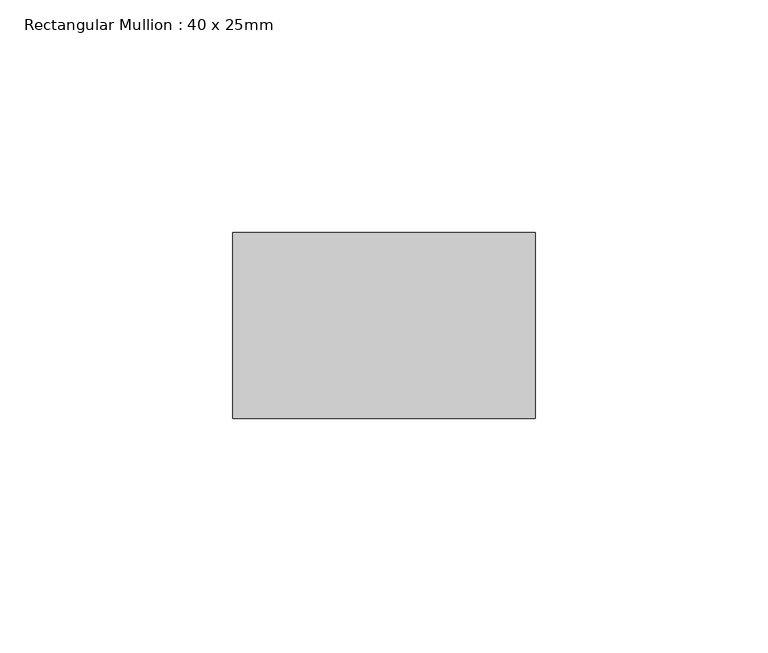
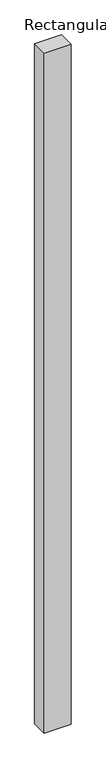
"""IFC4 building model written with IfcOpenShell, lengths in millimetres: member geometry, Rectangular Mullion : 40 x 25mm."""

from ifc_helpers import new_model, si_unit, frame, origin, place, context, project, spatial, polyline, outline, extrude, source, transform, mapped, element, save


def rectangular_mullion_40_x_25mm_73fa8cf5(model_context):
    return source(origin(), model_context, "Body", "SweptSolid", [
        extrude(outline(polyline([(0.0, -20.0), (0.0, -60.0), (-65.0, -60.0), (-65.0, -20.0), (0.0, -20.0)])), frame((0.0, 0.0, -1749.9), z_axis=(0.0, 0.0, 1.0), x_axis=(1.0, 0.0, 0.0)), (0.0, 0.0, 1.0), 1749.9),
    ])


if __name__ == "__main__":
    model = new_model("IFC4")
    model_context = context("Model", 3, world=origin())
    ifc_project = project(units=[si_unit("LENGTHUNIT", "METRE", prefix="MILLI")], contexts=[model_context])
    site = spatial("IfcSite", under=ifc_project)
    building = spatial("IfcBuilding", under=site)
    placement = place(None, origin())
    rectangular_mullion_40_x_25mm_shape = rectangular_mullion_40_x_25mm_73fa8cf5(model_context)
    element("IfcMember", 1, ObjectType="Rectangular Mullion : 40 x 25mm", at=placement, inside=building, context=model_context, shape_type="MappedRepresentation", body=[
        mapped(rectangular_mullion_40_x_25mm_shape, transform((0.0, 0.0, 0.0), x_axis=(1.0, 0.0, 0.0), y_axis=(0.0, 1.0, 0.0), z_axis=(0.0, 0.0, 1.0))),
    ])
    save(model, "model.ifc")
